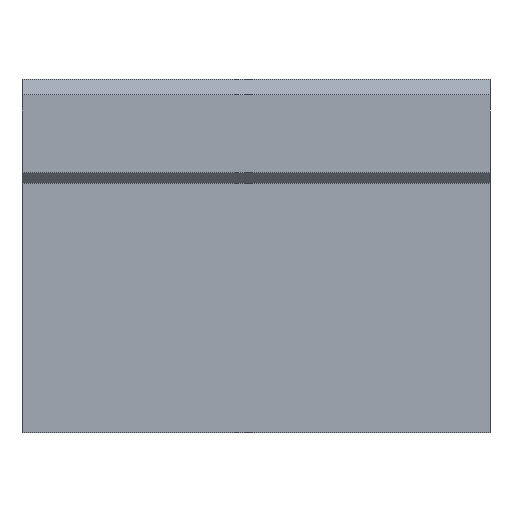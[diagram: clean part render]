
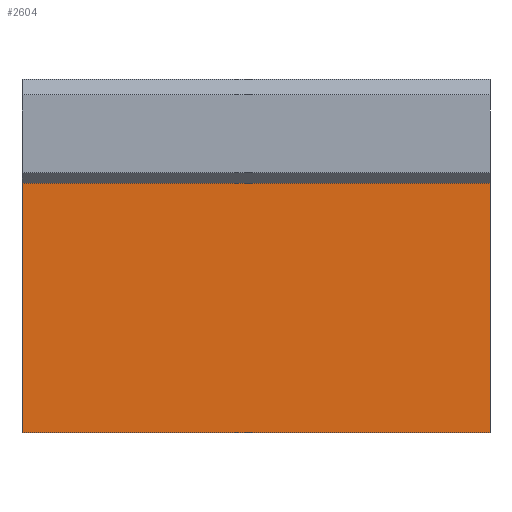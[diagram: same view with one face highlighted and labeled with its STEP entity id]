
A CAD part, front view. The second image highlights one B-rep face of the part: STEP entity #2604.
In plain terms, the highlighted planar face has unit normal (0, -1, 0).
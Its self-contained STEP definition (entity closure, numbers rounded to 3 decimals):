
#2541=CARTESIAN_POINT('',(0.0,-24.,10.0));
#2542=VERTEX_POINT('',#2541);
#2549=CARTESIAN_POINT('',(45.0,-24.,10.0));
#2550=VERTEX_POINT('',#2549);
#2551=CARTESIAN_POINT('',(0.0,-24.,10.0));
#2552=DIRECTION('',(1.0,0.0,0.0));
#2553=VECTOR('',#2552,45.0);
#2554=LINE('',#2551,#2553);
#2555=EDGE_CURVE('',#2542,#2550,#2554,.T.);
#2574=CARTESIAN_POINT('',(0.0,-24.,-14.));
#2575=DIRECTION('',(0.0,-1.0,0.0));
#2576=DIRECTION('',(0.0,0.0,-1.0));
#2577=AXIS2_PLACEMENT_3D('',#2574,#2575,#2576);
#2578=PLANE('',#2577);
#2579=ORIENTED_EDGE('',*,*,#2555,.F.);
#2580=CARTESIAN_POINT('',(0.0,-24.,-14.));
#2581=VERTEX_POINT('',#2580);
#2582=CARTESIAN_POINT('',(0.0,-24.,10.0));
#2583=DIRECTION('',(0.0,0.0,-1.0));
#2584=VECTOR('',#2583,24.);
#2585=LINE('',#2582,#2584);
#2586=EDGE_CURVE('',#2542,#2581,#2585,.T.);
#2587=ORIENTED_EDGE('',*,*,#2586,.T.);
#2588=CARTESIAN_POINT('',(45.0,-24.,-14.));
#2589=VERTEX_POINT('',#2588);
#2590=CARTESIAN_POINT('',(0.0,-24.,-14.));
#2591=DIRECTION('',(1.0,0.0,0.0));
#2592=VECTOR('',#2591,45.0);
#2593=LINE('',#2590,#2592);
#2594=EDGE_CURVE('',#2581,#2589,#2593,.T.);
#2595=ORIENTED_EDGE('',*,*,#2594,.T.);
#2596=CARTESIAN_POINT('',(45.0,-24.,-14.));
#2597=DIRECTION('',(0.0,0.0,1.0));
#2598=VECTOR('',#2597,24.);
#2599=LINE('',#2596,#2598);
#2600=EDGE_CURVE('',#2589,#2550,#2599,.T.);
#2601=ORIENTED_EDGE('',*,*,#2600,.T.);
#2602=EDGE_LOOP('',(#2579,#2587,#2595,#2601));
#2603=FACE_OUTER_BOUND('',#2602,.T.);
#2604=ADVANCED_FACE('',(#2603),#2578,.T.);
